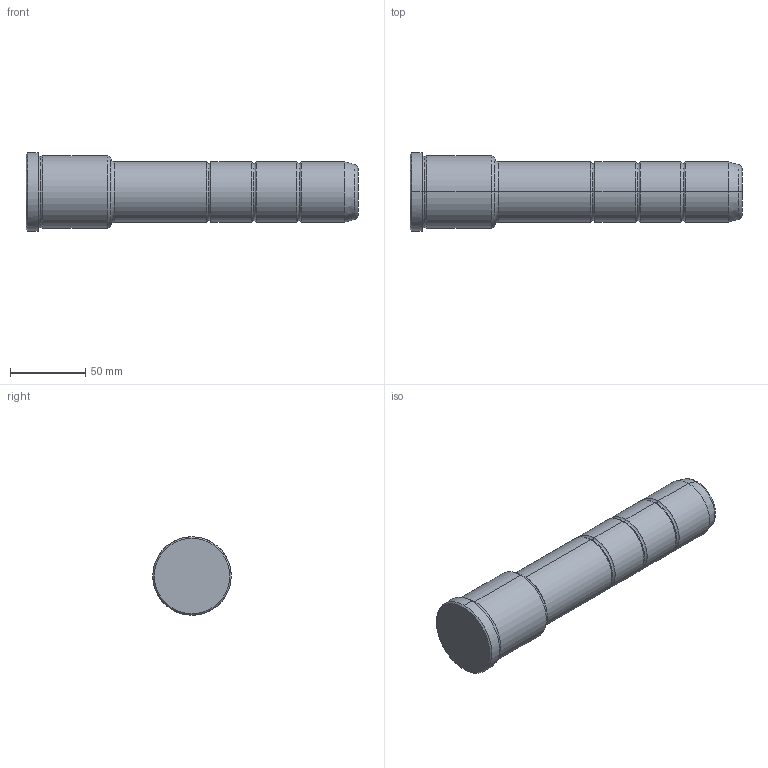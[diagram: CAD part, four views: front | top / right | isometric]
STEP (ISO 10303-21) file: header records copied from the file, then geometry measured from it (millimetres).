
FILE_DESCRIPTION(('CATIA V5 STEP Exchange'),'2;1');
FILE_NAME('C:\Users\Utente\Desktop\IO LAVORO\3D X SITO CF\X SITO\PLASTICA\351\351-40X56X220.stp','2021-10-28T18:29:25+00:00',('none'),('none'),'CATIA Version 5 Release 20 GA (IN-10)','CATIA V5 STEP AP203','none');
FILE_SCHEMA(('CONFIG_CONTROL_DESIGN'));
Length unit declared in the file: millimetre
Products named in the file (1): 351-40X56X220
Bounding box: 220 x 52 x 52 mm (x, y, z)
Volume: 307486.3 mm3; surface area: 32937 mm2
Topology: 1 solids, 1 shells, 42 faces, 118 edges, 80 vertices
Faces by surface type: torus 20, cylinder 12, cone 6, plane 4
Entity records: 1472 total; most frequent: CARTESIAN_POINT 353, ORIENTED_EDGE 236, DIRECTION 194, AXIS2_PLACEMENT_3D 135, EDGE_CURVE 118, CIRCLE 92, VERTEX_POINT 80, EDGE_LOOP 44
